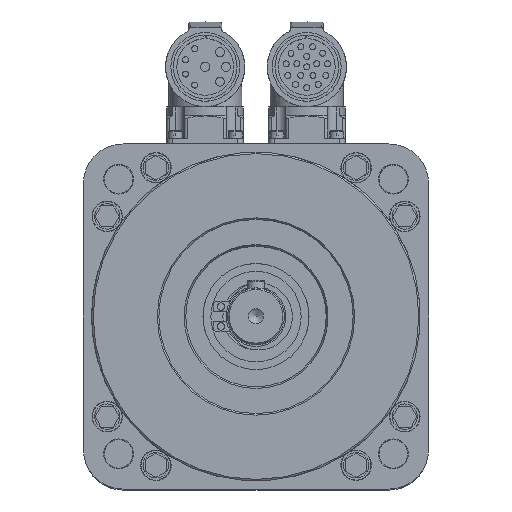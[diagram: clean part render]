
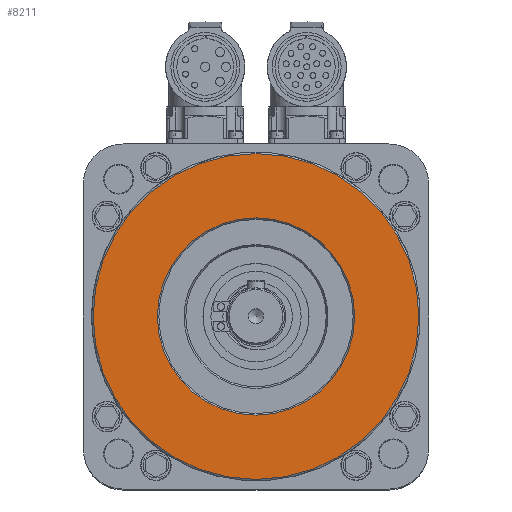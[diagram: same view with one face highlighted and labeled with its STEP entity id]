
A CAD part, top view. The second image highlights one B-rep face of the part: STEP entity #8211.
In plain terms, the highlighted planar face has unit normal (0, 0, 1).
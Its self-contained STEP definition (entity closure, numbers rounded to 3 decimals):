
#8211 = ADVANCED_FACE( '', ( #14455, #14456 ), #14457, .F. );
#14455 = FACE_BOUND( '', #27323, .T. );
#14456 = FACE_OUTER_BOUND( '', #27324, .T. );
#14457 = PLANE( '', #27325 );
#27323 = EDGE_LOOP( '', ( #38009 ) );
#27324 = EDGE_LOOP( '', ( #38010 ) );
#27325 = AXIS2_PLACEMENT_3D( '', #38011, #38012, #38013 );
#33630 = EDGE_CURVE( '', #44225, #44225, #44226, .T. );
#34307 = EDGE_CURVE( '', #45097, #45097, #45098, .T. );
#38009 = ORIENTED_EDGE( '', *, *, #33630, .T. );
#38010 = ORIENTED_EDGE( '', *, *, #34307, .F. );
#38011 = CARTESIAN_POINT( '', ( 0., 0., 16.5 ) );
#38012 = DIRECTION( '', ( 0., 0., -1. ) );
#38013 = DIRECTION( '', ( -1., 0., 0. ) );
#44225 = VERTEX_POINT( '', #59292 );
#44226 = CIRCLE( '', #59293, 33. );
#45097 = VERTEX_POINT( '', #61569 );
#45098 = CIRCLE( '', #61570, 54.5 );
#59292 = CARTESIAN_POINT( '', ( -33., 0., 16.5 ) );
#59293 = AXIS2_PLACEMENT_3D( '', #69452, #69453, #69454 );
#61569 = CARTESIAN_POINT( '', ( -54.5, 0., 16.5 ) );
#61570 = AXIS2_PLACEMENT_3D( '', #70085, #70086, #70087 );
#69452 = CARTESIAN_POINT( '', ( 0., 0., 16.5 ) );
#69453 = DIRECTION( '', ( 0., 0., -1. ) );
#69454 = DIRECTION( '', ( -1., 0., 0. ) );
#70085 = CARTESIAN_POINT( '', ( 0., 0., 16.5 ) );
#70086 = DIRECTION( '', ( 0., 0., -1. ) );
#70087 = DIRECTION( '', ( -1., 0., 0. ) );
